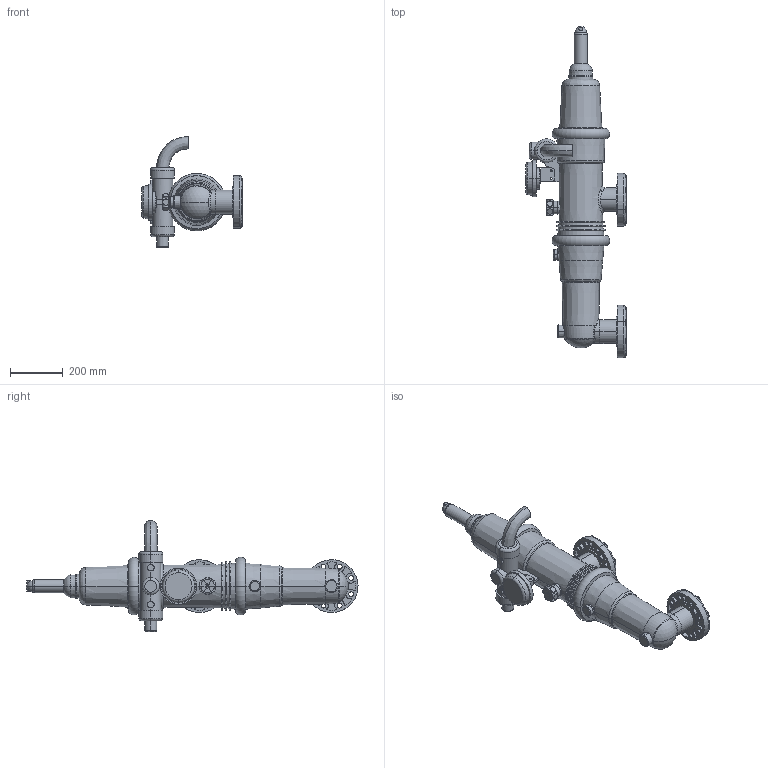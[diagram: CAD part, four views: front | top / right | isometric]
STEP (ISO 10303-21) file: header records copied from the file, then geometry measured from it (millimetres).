
FILE_DESCRIPTION (( 'STEP AP203' ), '1' );
FILE_NAME ('055001-000001.STEP', '2021-12-13T08:17:51', ( '' ), ( '' ), 'SwSTEP 2.0', 'SolidWorks 2019', '' );
FILE_SCHEMA (( 'CONFIG_CONTROL_DESIGN' ));
Length unit declared in the file: millimetre
Products named in the file (1): 055001-000001
Bounding box: 381.5 x 1257.78 x 421 mm (x, y, z)
Volume: 26519028.2 mm3; surface area: 1152713.4 mm2
Topology: 6 solids, 6 shells, 698 faces, 1810 edges, 1154 vertices
Faces by surface type: cylinder 411, plane 156, cone 68, torus 37, bspline 24, sphere 2
Entity records: 25810 total; most frequent: CARTESIAN_POINT 8335, DIRECTION 3893, ORIENTED_EDGE 3616, EDGE_CURVE 1808, AXIS2_PLACEMENT_3D 1609, VERTEX_POINT 1154, CIRCLE 934, EDGE_LOOP 770
